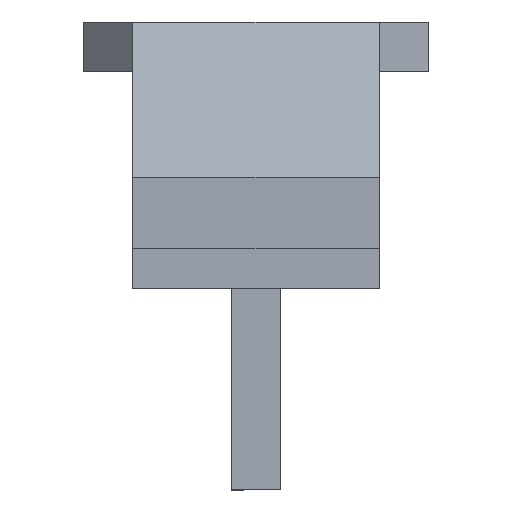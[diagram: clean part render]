
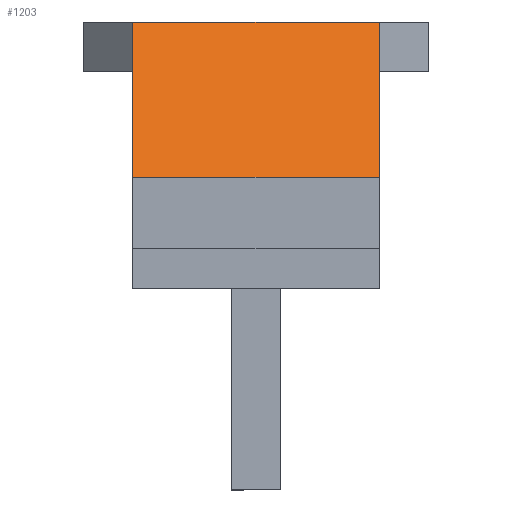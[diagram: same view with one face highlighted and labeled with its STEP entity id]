
A CAD part, left-side view. The second image highlights one B-rep face of the part: STEP entity #1203.
In plain terms, the highlighted planar face has unit normal (-0.746, 0, 0.666).
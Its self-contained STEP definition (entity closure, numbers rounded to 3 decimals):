
#41 = VECTOR ( 'NONE', #1467, 1000. ) ;
#57 = CARTESIAN_POINT ( 'NONE',  ( -30.1, -25., 81.03 ) ) ;
#60 = PLANE ( 'NONE',  #1264 ) ;
#79 = EDGE_CURVE ( 'NONE', #128, #1330, #1085, .T. ) ;
#99 = VECTOR ( 'NONE', #305, 1000. ) ;
#104 = EDGE_CURVE ( 'NONE', #1063, #429, #1491, .T. ) ;
#128 = VERTEX_POINT ( 'NONE', #1331 ) ;
#169 = DIRECTION ( 'NONE',  ( 0.746, 0., -0.666 ) ) ;
#196 = LINE ( 'NONE', #848, #41 ) ;
#240 = EDGE_LOOP ( 'NONE', ( #635, #1619, #671, #1554 ) ) ;
#305 = DIRECTION ( 'NONE',  ( -0.666, 0., -0.746 ) ) ;
#429 = VERTEX_POINT ( 'NONE', #876 ) ;
#482 = DIRECTION ( 'NONE',  ( 0.666, 0., 0.746 ) ) ;
#539 = DIRECTION ( 'NONE',  ( -0.666, 0., -0.746 ) ) ;
#635 = ORIENTED_EDGE ( 'NONE', *, *, #1579, .F. ) ;
#645 = FACE_OUTER_BOUND ( 'NONE', #240, .T. ) ;
#671 = ORIENTED_EDGE ( 'NONE', *, *, #738, .T. ) ;
#691 = CARTESIAN_POINT ( 'NONE',  ( -88.09, -37.5, 16. ) ) ;
#738 = EDGE_CURVE ( 'NONE', #1063, #1330, #196, .T. ) ;
#752 = LINE ( 'NONE', #1302, #1192 ) ;
#774 = VECTOR ( 'NONE', #482, 1000. ) ;
#848 = CARTESIAN_POINT ( 'NONE',  ( -60., -37.5, 47.5 ) ) ;
#876 = CARTESIAN_POINT ( 'NONE',  ( -88.09, -25., 16. ) ) ;
#978 = CARTESIAN_POINT ( 'NONE',  ( -60.888, 25., 46.504 ) ) ;
#1063 = VERTEX_POINT ( 'NONE', #1066 ) ;
#1066 = CARTESIAN_POINT ( 'NONE',  ( -60., -25., 47.5 ) ) ;
#1085 = LINE ( 'NONE', #978, #774 ) ;
#1108 = CARTESIAN_POINT ( 'NONE',  ( -60., 25., 47.5 ) ) ;
#1192 = VECTOR ( 'NONE', #1307, 1000. ) ;
#1203 = ADVANCED_FACE ( 'NONE', ( #645 ), #60, .F. ) ;
#1264 = AXIS2_PLACEMENT_3D ( 'NONE', #691, #169, #539 ) ;
#1302 = CARTESIAN_POINT ( 'NONE',  ( -88.09, -37.5, 16. ) ) ;
#1307 = DIRECTION ( 'NONE',  ( 0., 1., 0. ) ) ;
#1330 = VERTEX_POINT ( 'NONE', #1108 ) ;
#1331 = CARTESIAN_POINT ( 'NONE',  ( -88.09, 25., 16. ) ) ;
#1467 = DIRECTION ( 'NONE',  ( 0., 1., 0. ) ) ;
#1491 = LINE ( 'NONE', #57, #99 ) ;
#1554 = ORIENTED_EDGE ( 'NONE', *, *, #79, .F. ) ;
#1579 = EDGE_CURVE ( 'NONE', #429, #128, #752, .T. ) ;
#1619 = ORIENTED_EDGE ( 'NONE', *, *, #104, .F. ) ;
